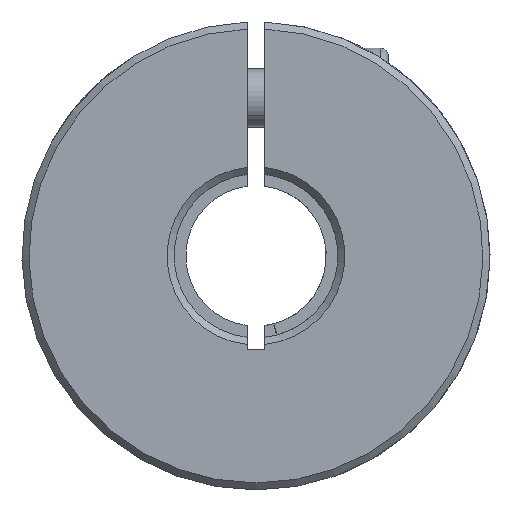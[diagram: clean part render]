
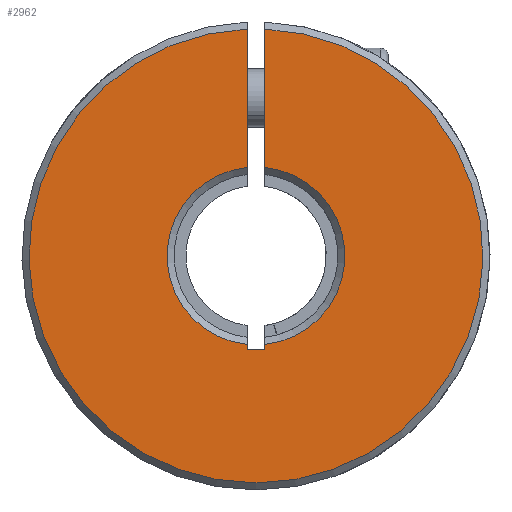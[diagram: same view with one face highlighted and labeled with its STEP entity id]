
A CAD part, front view. The second image highlights one B-rep face of the part: STEP entity #2962.
In plain terms, the highlighted planar face has unit normal (0, -1, 0).
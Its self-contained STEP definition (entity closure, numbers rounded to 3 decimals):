
#43 = VECTOR ( 'NONE', #255, 1000. ) ;
#73 = CARTESIAN_POINT ( 'NONE',  ( -0.75, -25., 19.385 ) ) ;
#178 = LINE ( 'NONE', #2396, #2926 ) ;
#255 = DIRECTION ( 'NONE',  ( 0., 0., 1. ) ) ;
#301 = CARTESIAN_POINT ( 'NONE',  ( 0., -25., 0. ) ) ;
#336 = CARTESIAN_POINT ( 'NONE',  ( -0.75, -25., -8. ) ) ;
#521 = VERTEX_POINT ( 'NONE', #2615 ) ;
#558 = ORIENTED_EDGE ( 'NONE', *, *, #4409, .T. ) ;
#593 = CIRCLE ( 'NONE', #1571, 7.6 ) ;
#687 = ORIENTED_EDGE ( 'NONE', *, *, #1863, .T. ) ;
#724 = EDGE_CURVE ( 'NONE', #521, #1906, #593, .T. ) ;
#754 = LINE ( 'NONE', #4451, #43 ) ;
#775 = DIRECTION ( 'NONE',  ( -1., 0., 0. ) ) ;
#1002 = DIRECTION ( 'NONE',  ( 0., 0., -1. ) ) ;
#1178 = DIRECTION ( 'NONE',  ( 0., 0., 1. ) ) ;
#1510 = AXIS2_PLACEMENT_3D ( 'NONE', #5991, #5469, #1811 ) ;
#1571 = AXIS2_PLACEMENT_3D ( 'NONE', #3814, #4704, #3785 ) ;
#1634 = CIRCLE ( 'NONE', #5517, 7.6 ) ;
#1690 = CARTESIAN_POINT ( 'NONE',  ( 0., -25., 0. ) ) ;
#1693 = EDGE_CURVE ( 'NONE', #3925, #3185, #5833, .T. ) ;
#1794 = EDGE_CURVE ( 'NONE', #3185, #4870, #5081, .T. ) ;
#1811 = DIRECTION ( 'NONE',  ( 0., 0., 1. ) ) ;
#1863 = EDGE_CURVE ( 'NONE', #4822, #2998, #4438, .T. ) ;
#1906 = VERTEX_POINT ( 'NONE', #5199 ) ;
#1972 = VERTEX_POINT ( 'NONE', #2836 ) ;
#2175 = DIRECTION ( 'NONE',  ( 0., 1., 0. ) ) ;
#2252 = ORIENTED_EDGE ( 'NONE', *, *, #4571, .T. ) ;
#2304 = ORIENTED_EDGE ( 'NONE', *, *, #724, .T. ) ;
#2396 = CARTESIAN_POINT ( 'NONE',  ( 0.75, -25., -8. ) ) ;
#2514 = EDGE_CURVE ( 'NONE', #1972, #4822, #754, .T. ) ;
#2615 = CARTESIAN_POINT ( 'NONE',  ( 0.75, -25., 7.563 ) ) ;
#2836 = CARTESIAN_POINT ( 'NONE',  ( -0.75, -25., 7.563 ) ) ;
#2926 = VECTOR ( 'NONE', #5262, 1000. ) ;
#2962 = ADVANCED_FACE ( 'NONE', ( #4414 ), #3537, .F. ) ;
#2998 = VERTEX_POINT ( 'NONE', #3567 ) ;
#3152 = DIRECTION ( 'NONE',  ( 0., 1., 0. ) ) ;
#3185 = VERTEX_POINT ( 'NONE', #5174 ) ;
#3345 = CARTESIAN_POINT ( 'NONE',  ( 0.75, -25., -8. ) ) ;
#3371 = ORIENTED_EDGE ( 'NONE', *, *, #4809, .T. ) ;
#3393 = AXIS2_PLACEMENT_3D ( 'NONE', #1690, #3152, #1178 ) ;
#3469 = VECTOR ( 'NONE', #5536, 1000. ) ;
#3537 = PLANE ( 'NONE',  #3393 ) ;
#3567 = CARTESIAN_POINT ( 'NONE',  ( 0.75, -25., 19.385 ) ) ;
#3785 = DIRECTION ( 'NONE',  ( 0., 0., 1. ) ) ;
#3814 = CARTESIAN_POINT ( 'NONE',  ( 0., -25., 0. ) ) ;
#3890 = VECTOR ( 'NONE', #775, 1000. ) ;
#3925 = VERTEX_POINT ( 'NONE', #3345 ) ;
#3946 = CARTESIAN_POINT ( 'NONE',  ( -0.75, -25., -8. ) ) ;
#4409 = EDGE_CURVE ( 'NONE', #1906, #3925, #178, .T. ) ;
#4414 = FACE_OUTER_BOUND ( 'NONE', #4490, .T. ) ;
#4438 = CIRCLE ( 'NONE', #1510, 19.4 ) ;
#4451 = CARTESIAN_POINT ( 'NONE',  ( -0.75, -25., -8. ) ) ;
#4490 = EDGE_LOOP ( 'NONE', ( #3371, #2304, #558, #4626, #5038, #2252, #4805, #687 ) ) ;
#4571 = EDGE_CURVE ( 'NONE', #4870, #1972, #1634, .T. ) ;
#4626 = ORIENTED_EDGE ( 'NONE', *, *, #1693, .T. ) ;
#4704 = DIRECTION ( 'NONE',  ( 0., 1., 0. ) ) ;
#4792 = CARTESIAN_POINT ( 'NONE',  ( -0.75, -25., -7.563 ) ) ;
#4805 = ORIENTED_EDGE ( 'NONE', *, *, #2514, .T. ) ;
#4809 = EDGE_CURVE ( 'NONE', #2998, #521, #5154, .T. ) ;
#4822 = VERTEX_POINT ( 'NONE', #73 ) ;
#4870 = VERTEX_POINT ( 'NONE', #4792 ) ;
#5038 = ORIENTED_EDGE ( 'NONE', *, *, #1794, .T. ) ;
#5081 = LINE ( 'NONE', #336, #3469 ) ;
#5154 = LINE ( 'NONE', #6001, #6008 ) ;
#5174 = CARTESIAN_POINT ( 'NONE',  ( -0.75, -25., -8. ) ) ;
#5199 = CARTESIAN_POINT ( 'NONE',  ( 0.75, -25., -7.563 ) ) ;
#5262 = DIRECTION ( 'NONE',  ( 0., 0., -1. ) ) ;
#5469 = DIRECTION ( 'NONE',  ( 0., -1., 0. ) ) ;
#5517 = AXIS2_PLACEMENT_3D ( 'NONE', #301, #2175, #5791 ) ;
#5536 = DIRECTION ( 'NONE',  ( 0., 0., 1. ) ) ;
#5791 = DIRECTION ( 'NONE',  ( 0., 0., 1. ) ) ;
#5833 = LINE ( 'NONE', #3946, #3890 ) ;
#5991 = CARTESIAN_POINT ( 'NONE',  ( 0., -25., 0. ) ) ;
#6001 = CARTESIAN_POINT ( 'NONE',  ( 0.75, -25., -8. ) ) ;
#6008 = VECTOR ( 'NONE', #1002, 1000. ) ;
